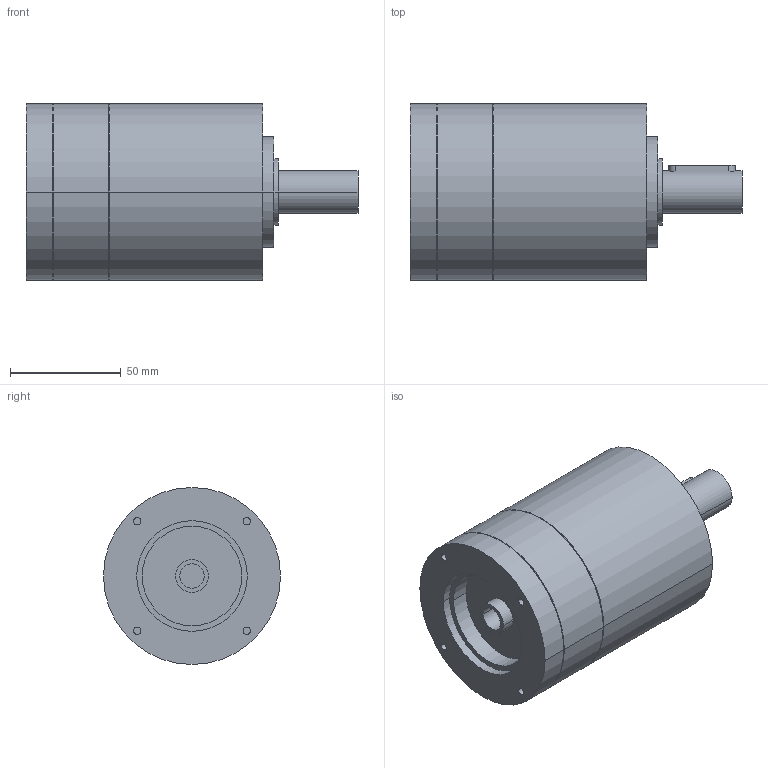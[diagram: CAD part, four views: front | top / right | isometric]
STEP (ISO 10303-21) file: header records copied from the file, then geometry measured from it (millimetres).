
FILE_DESCRIPTION(('CoCreate Modeling STEP Export'),'2;1');
FILE_NAME('GPR100_ig-3-4-5-6_19_B14_11_P22.stp','2014-08-26T10:01:52',(''),(''),'CoCreate Modeling STEP processor for AP214 (Solid Model)','CoCreate Modeling 16.00C 25-Feb-2009 (C) Parametric Technology GmbH','');
FILE_SCHEMA(('AUTOMOTIVE_DESIGN { 1 0 10303 214 1 1 1 1 }'));
Length unit declared in the file: millimetre
Products named in the file (2): GPR100_ig-3-4-5-6_19_B14_11_P22
Assembly tree (1 placements, depth 2):
  GPR100_ig-3-4-5-6_19_B14_11_P22
    GPR100_ig-3-4-5-6_19_B14_11_P22
Bounding box: 150 x 80 x 80 mm (x, y, z)
Volume: 535525.4 mm3; surface area: 45314.5 mm2
Topology: 1 solids, 1 shells, 68 faces, 164 edges, 114 vertices
Faces by surface type: cylinder 40, plane 22, cone 6
Entity records: 1701 total; most frequent: ORIENTED_EDGE 324, CARTESIAN_POINT 316, DIRECTION 224, EDGE_CURVE 162, VERTEX_POINT 114, AXIS2_PLACEMENT_3D 86, EDGE_LOOP 86, FACE_OUTER_BOUND 68
